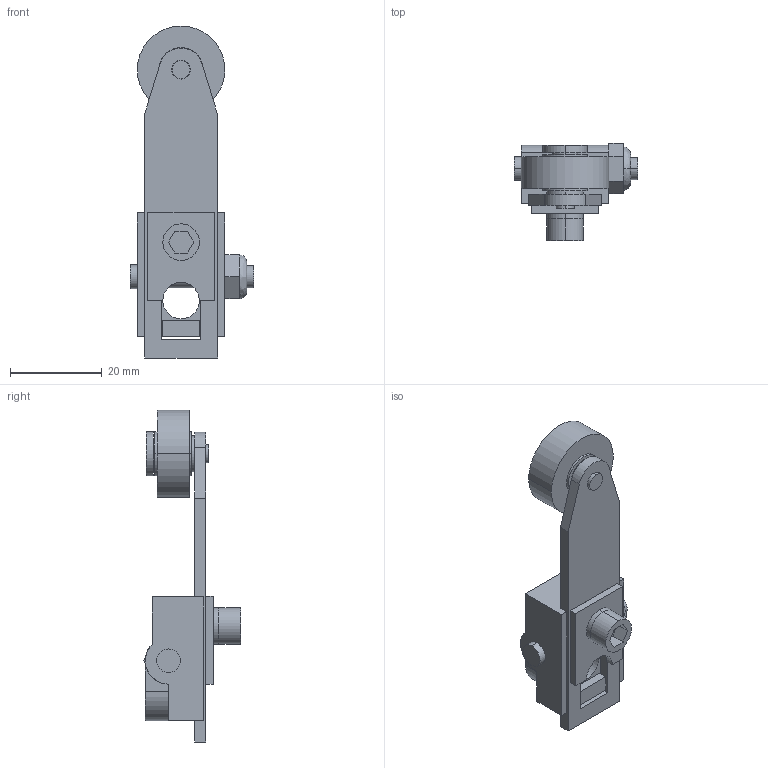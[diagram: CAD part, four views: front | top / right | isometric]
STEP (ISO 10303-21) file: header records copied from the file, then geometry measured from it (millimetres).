
FILE_DESCRIPTION (( 'STEP AP214' ), '1' );
FILE_NAME ('802T-W20J.STEP', '2009-07-25T04:44:43', ( 'me' ), ( '' ), 'SwSTEP 2.0', 'SolidWorks 2007', '' );
FILE_SCHEMA (( 'AUTOMOTIVE_DESIGN' ));
Length unit declared in the file: millimetre
Products named in the file (1): 802T-W20J
Bounding box: 26.99 x 21.16 x 72.26 mm (x, y, z)
Volume: 9833.2 mm3; surface area: 8384.4 mm2
Topology: 10 solids, 10 shells, 136 faces, 321 edges, 210 vertices
Faces by surface type: plane 83, cylinder 49, bspline 4
Entity records: 5613 total; most frequent: CARTESIAN_POINT 728, DIRECTION 703, ORIENTED_EDGE 642, EDGE_CURVE 321, AXIS2_PLACEMENT_3D 249, VERTEX_POINT 210, VECTOR 205, LINE 205
